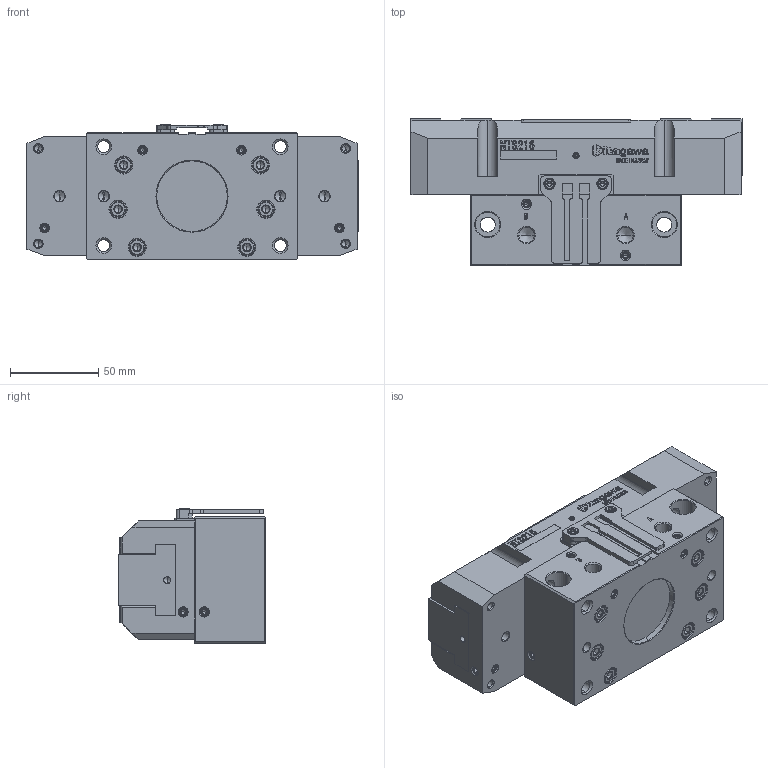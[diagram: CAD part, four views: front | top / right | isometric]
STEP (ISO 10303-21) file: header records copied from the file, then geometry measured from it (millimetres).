
FILE_DESCRIPTION (( 'STEP AP214' ), '1' );
FILE_NAME ('NTS216-UC.STEP', '2025-01-07T06:20:46', ( '' ), ( '' ), 'SwSTEP 2.0', 'SolidWorks 2022', '' );
FILE_SCHEMA (( 'AUTOMOTIVE_DESIGN' ));
Length unit declared in the file: millimetre
Products named in the file (11): S-SARA^HP-NTS216; S-TOME1^HP-NTS216; BOLT1^HP-NTS216; BODY^HP-NTS216; NTS216-UC; REAR BODY^HP-NTS216; BOLT2^HP-NTS216; S-TOME2^HP-NTS216; MASTER JAW^HP-NTS216; COVER^HP-NTS216; BRACKET^HP-NTS216
Assembly tree (29 placements, depth 2):
  NTS216-UC
    REAR BODY^HP-NTS216
    BODY^HP-NTS216
    MASTER JAW^HP-NTS216  x2
    COVER^HP-NTS216
    BRACKET^HP-NTS216
    BOLT1^HP-NTS216  x2
    BOLT2^HP-NTS216  x6
    S-TOME1^HP-NTS216  x10
    S-TOME2^HP-NTS216
    S-SARA^HP-NTS216  x4
Bounding box: 188 x 83 x 76.7 mm (x, y, z)
Volume: 772855.6 mm3; surface area: 151164 mm2
Topology: 29 solids, 29 shells, 2093 faces, 5621 edges, 3602 vertices
Faces by surface type: plane 1343, cone 346, cylinder 288, bspline 116
Entity records: 58683 total; most frequent: CARTESIAN_POINT 16001, ORIENTED_EDGE 9018, DIRECTION 7853, EDGE_CURVE 4509, VECTOR 3663, LINE 3663, VERTEX_POINT 2955, AXIS2_PLACEMENT_3D 2095
